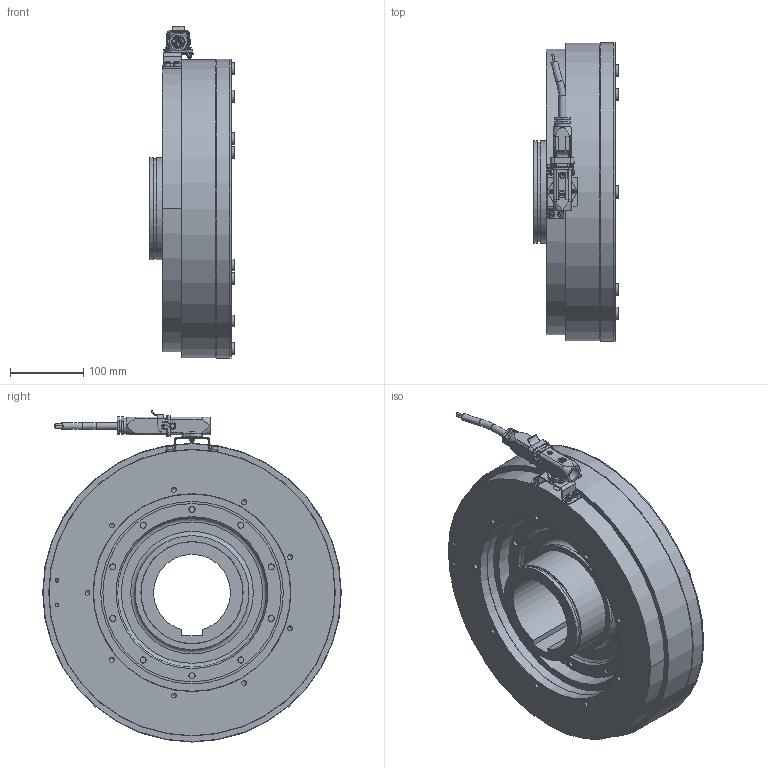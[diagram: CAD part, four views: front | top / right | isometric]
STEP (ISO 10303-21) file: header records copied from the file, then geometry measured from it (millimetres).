
FILE_DESCRIPTION(/* description */ (''),/* implementation_level */ '2;1');
FILE_NAME(/* name */ 'X:\INVENTOR\DISEGNI\08_Freni_Friz_Elettmag_Monodisco\08_26 EMSL_DF\EMSL_DF STEP\08_26_400_21 EMSL400_DF-BM_S@STEP.stp',/* time_stamp */ '2018-04-24T08:30:33+02:00',/* author */ ('stefano'),/* organization */ (''),/* preprocessor_version */ 'ST-DEVELOPER v17',/* originating_system */ 'Autodesk Inventor 2018',/* authorisation */ '');
FILE_SCHEMA (('AUTOMOTIVE_DESIGN { 1 0 10303 214 3 1 1 }'));
Length unit declared in the file: millimetre
Products named in the file (1): 08_26_400_21 EMSL400_DF-BM - Spina_Substitute_1
Bounding box: 116 x 409 x 454.6 mm (x, y, z)
Volume: 8040610.5 mm3; surface area: 1069856.5 mm2
Topology: 4 solids, 4 shells, 1616 faces, 4485 edges, 3036 vertices
Faces by surface type: plane 943, cylinder 515, cone 102, torus 32, bspline 21, sphere 3
Full cylindrical faces by diameter (mm): 0.35 x1, 0.491 x1, 0.753 x1, 0.95 x1, 0.986 x1, 1.05 x1, 2.5 x2, 3 x16, 3.2 x1, 3.25 x2, 3.59 x3, 4 x3, 4.675 x2, 4.8 x2, 4.917 x2, 5 x4, 5.25 x4, 5.5 x2, 6 x6, 6.2 x1, 6.647 x9, 7 x1, 7.9 x2, 8.2 x2, 8.376 x10, 8.5 x4, 9.5 x2, 12.1 x6, 13.5 x2, 16 x24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
Entity records: 54994 total; most frequent: CARTESIAN_POINT 10606, DIRECTION 8951, ORIENTED_EDGE 8912, EDGE_CURVE 4456, AXIS2_PLACEMENT_3D 3129, VERTEX_POINT 3036, LINE 2693, VECTOR 2693
